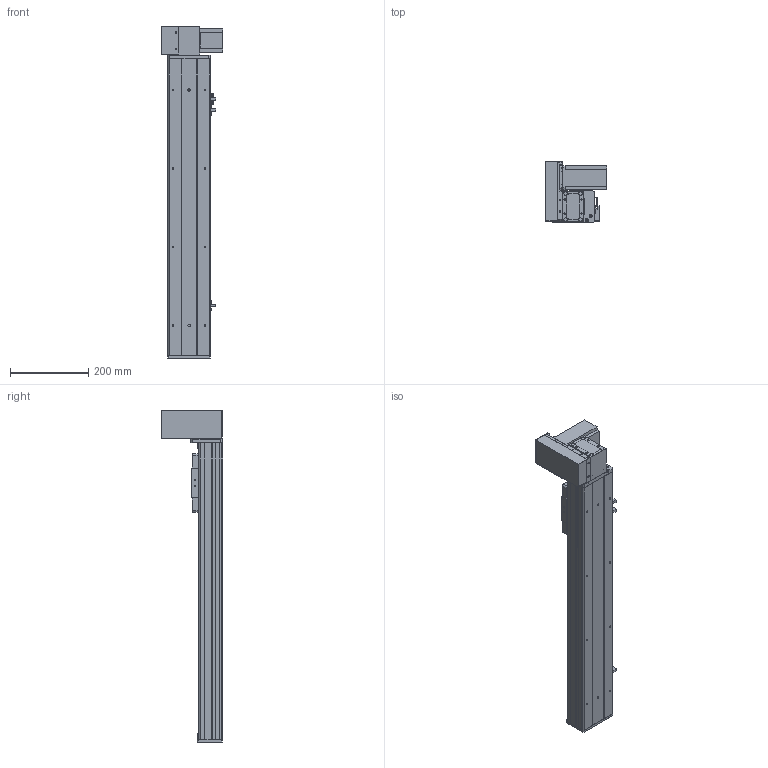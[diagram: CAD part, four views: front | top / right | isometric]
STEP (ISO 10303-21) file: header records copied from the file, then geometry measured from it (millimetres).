
FILE_DESCRIPTION (( 'STEP AP203' ), '1' );
FILE_NAME ('Y10CB-D90-S500-UL-P400W.STEP', '2020-02-16T07:07:48', ( '微软用户' ), ( '微软中国' ), 'SwSTEP 2.0', 'SolidWorks 2017', '' );
FILE_SCHEMA (( 'CONFIG_CONTROL_DESIGN' ));
Length unit declared in the file: millimetre
Products named in the file (18): Y135C-陔俋离換覜結え-; san松下电机400不带刹车----; Y100-135俋离換覜ん--; 0B-源倛裔啣; Y10B-耜蚾蟀諉啣----; 0B-埴倛裔啣; 00B-俋欶BM--; 10CB-詩湍-; Y10B--々湍喘謫眊--666; Y10CB- 掛极耜裔啣-毀---; 0CB-雄赽釱---; Y10CB-D90-S500-UL-P400W; Y10C---詩湍揤啣; 0Cb-俋欶---; 10CB9-掛极; Y10B-々湍喘謫眊楊擘啣--; 10CB-耜裔; 0B-萇儂楊擘啣
Assembly tree (21 placements, depth 2):
  Y10CB-D90-S500-UL-P400W
    0CB-雄赽釱---
    0Cb-俋欶---
    Y10B-々湍喘謫眊楊擘啣--
    0B-萇儂楊擘啣
    san松下电机400不带刹车----
    0B-源倛裔啣
    0B-埴倛裔啣
    10CB-詩湍-
    Y10CB- 掛极耜裔啣-毀---  x2
    Y10C---詩湍揤啣  x2
    10CB9-掛极
    10CB-耜裔
    Y135C-陔俋离換覜結え-
    Y100-135俋离換覜ん--  x3
    Y10B-耜蚾蟀諉啣----
    00B-俋欶BM--
    Y10B--々湍喘謫眊--666
Bounding box: 157 x 155.5 x 846 mm (x, y, z)
Volume: 2263578.6 mm3; surface area: 971255.8 mm2
Topology: 21 solids, 21 shells, 954 faces, 2523 edges, 1658 vertices
Faces by surface type: plane 471, cylinder 459, cone 24
Entity records: 29412 total; most frequent: CARTESIAN_POINT 5025, DIRECTION 4794, ORIENTED_EDGE 4516, EDGE_CURVE 2258, AXIS2_PLACEMENT_3D 1717, VERTEX_POINT 1484, VECTOR 1360, LINE 1360
